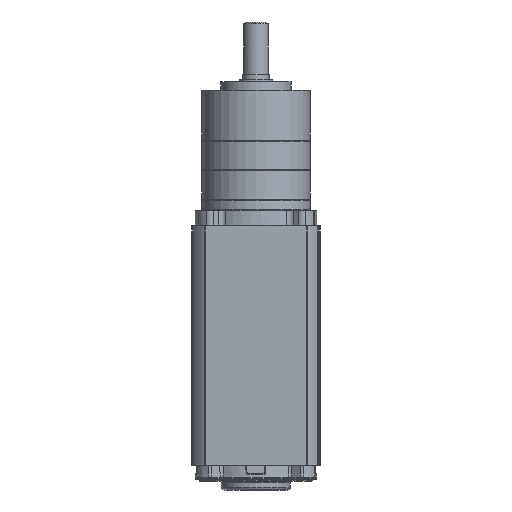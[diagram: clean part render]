
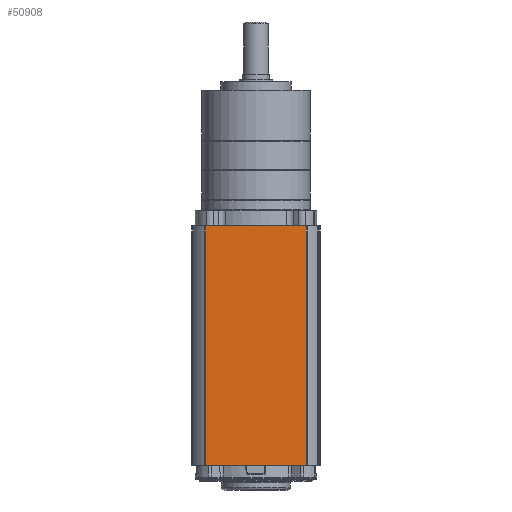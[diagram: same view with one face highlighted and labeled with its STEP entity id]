
A CAD part, front view. The second image highlights one B-rep face of the part: STEP entity #50908.
In plain terms, the highlighted planar face has unit normal (0, -1, 0).
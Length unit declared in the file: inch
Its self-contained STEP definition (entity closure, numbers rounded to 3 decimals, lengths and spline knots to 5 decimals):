
#164 = DIRECTION ( 'NONE',  ( 0., -1., 0. ) ) ;
#1393 = AXIS2_PLACEMENT_3D ( 'NONE', #26035, #164, #30403 ) ;
#1424 = CARTESIAN_POINT ( 'NONE',  ( -1.1275, -1.442, -1.83454 ) ) ;
#1580 = VECTOR ( 'NONE', #49267, 39.37008 ) ;
#1711 = VERTEX_POINT ( 'NONE', #7009 ) ;
#2463 = EDGE_CURVE ( 'NONE', #31209, #44775, #47471, .T. ) ;
#3581 = FACE_OUTER_BOUND ( 'NONE', #16611, .T. ) ;
#7009 = CARTESIAN_POINT ( 'NONE',  ( -1.1275, -1.442, -7.20454 ) ) ;
#10435 = EDGE_CURVE ( 'NONE', #31209, #1711, #47111, .T. ) ;
#16611 = EDGE_LOOP ( 'NONE', ( #22778, #43372, #29335, #38277 ) ) ;
#20213 = CARTESIAN_POINT ( 'NONE',  ( -1.1275, -1.442, -7.33954 ) ) ;
#22015 = CARTESIAN_POINT ( 'NONE',  ( 1.1275, -1.442, -7.20454 ) ) ;
#22778 = ORIENTED_EDGE ( 'NONE', *, *, #24835, .T. ) ;
#24157 = VECTOR ( 'NONE', #54241, 39.37008 ) ;
#24665 = DIRECTION ( 'NONE',  ( 1., 0., 0. ) ) ;
#24835 = EDGE_CURVE ( 'NONE', #42054, #1711, #31813, .T. ) ;
#25300 = VECTOR ( 'NONE', #24665, 39.37008 ) ;
#26035 = CARTESIAN_POINT ( 'NONE',  ( -1.1475, -1.442, -7.33954 ) ) ;
#29044 = CARTESIAN_POINT ( 'NONE',  ( -1.1475, -1.442, -1.83454 ) ) ;
#29335 = ORIENTED_EDGE ( 'NONE', *, *, #2463, .T. ) ;
#30403 = DIRECTION ( 'NONE',  ( 1., 0., 0. ) ) ;
#31209 = VERTEX_POINT ( 'NONE', #22015 ) ;
#31813 = LINE ( 'NONE', #20213, #43282 ) ;
#34323 = PLANE ( 'NONE',  #1393 ) ;
#36372 = CARTESIAN_POINT ( 'NONE',  ( 1.1275, -1.442, -7.20454 ) ) ;
#36403 = CARTESIAN_POINT ( 'NONE',  ( 1.1275, -1.442, -1.83454 ) ) ;
#38277 = ORIENTED_EDGE ( 'NONE', *, *, #46163, .F. ) ;
#41199 = CARTESIAN_POINT ( 'NONE',  ( 1.1275, -1.442, -7.33954 ) ) ;
#42054 = VERTEX_POINT ( 'NONE', #1424 ) ;
#43282 = VECTOR ( 'NONE', #46000, 39.37008 ) ;
#43372 = ORIENTED_EDGE ( 'NONE', *, *, #10435, .F. ) ;
#44775 = VERTEX_POINT ( 'NONE', #36403 ) ;
#46000 = DIRECTION ( 'NONE',  ( 0., 0., -1. ) ) ;
#46163 = EDGE_CURVE ( 'NONE', #42054, #44775, #46920, .T. ) ;
#46920 = LINE ( 'NONE', #29044, #25300 ) ;
#47111 = LINE ( 'NONE', #36372, #24157 ) ;
#47471 = LINE ( 'NONE', #41199, #1580 ) ;
#49267 = DIRECTION ( 'NONE',  ( 0., 0., 1. ) ) ;
#50908 = ADVANCED_FACE ( 'NONE', ( #3581 ), #34323, .T. ) ;
#54241 = DIRECTION ( 'NONE',  ( -1., 0., 0. ) ) ;
